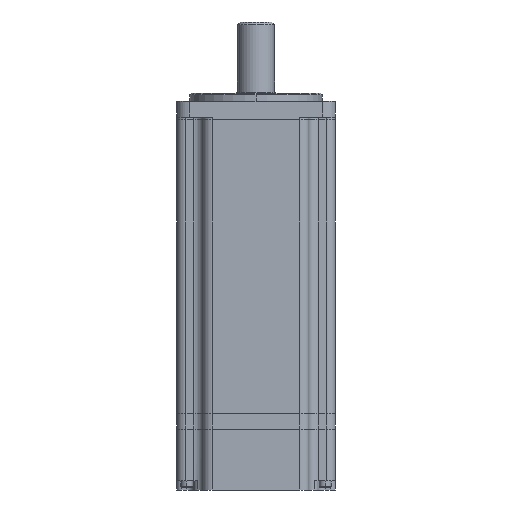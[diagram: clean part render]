
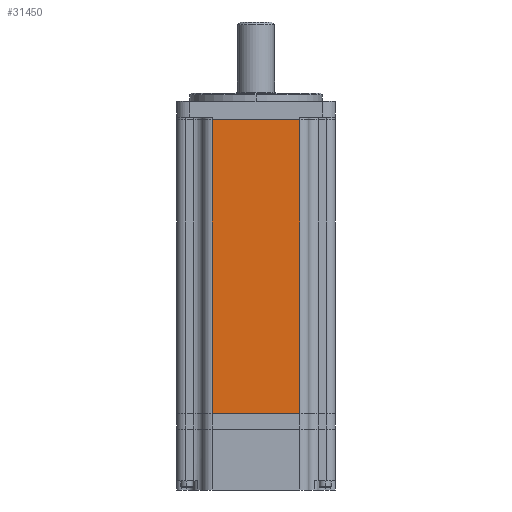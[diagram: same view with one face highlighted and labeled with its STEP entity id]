
A CAD part, left-side view. The second image highlights one B-rep face of the part: STEP entity #31450.
In plain terms, the highlighted planar face has unit normal (-1, 0, 0).
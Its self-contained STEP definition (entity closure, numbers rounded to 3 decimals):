
#43 = ORIENTED_EDGE ( 'NONE', *, *, #6734, .T. ) ;
#5671 = VECTOR ( 'NONE', #45892, 1000. ) ;
#6734 = EDGE_CURVE ( 'NONE', #25562, #23627, #47870, .T. ) ;
#7337 = ORIENTED_EDGE ( 'NONE', *, *, #9336, .T. ) ;
#8820 = AXIS2_PLACEMENT_3D ( 'NONE', #42765, #46589, #23961 ) ;
#9336 = EDGE_CURVE ( 'NONE', #15531, #25562, #28213, .T. ) ;
#10498 = CARTESIAN_POINT ( 'NONE',  ( -30., -16.5, 0. ) ) ;
#11825 = CARTESIAN_POINT ( 'NONE',  ( -30., -20., 0. ) ) ;
#12350 = ORIENTED_EDGE ( 'NONE', *, *, #37418, .T. ) ;
#12410 = CARTESIAN_POINT ( 'NONE',  ( -30., -20., -111. ) ) ;
#13964 = ORIENTED_EDGE ( 'NONE', *, *, #44519, .F. ) ;
#13992 = VECTOR ( 'NONE', #16548, 1000. ) ;
#15531 = VERTEX_POINT ( 'NONE', #10498 ) ;
#16548 = DIRECTION ( 'NONE',  ( 0., 0., 1. ) ) ;
#20154 = PLANE ( 'NONE',  #8820 ) ;
#20357 = CARTESIAN_POINT ( 'NONE',  ( -30., 16.5, 0. ) ) ;
#23064 = VECTOR ( 'NONE', #42825, 1000. ) ;
#23627 = VERTEX_POINT ( 'NONE', #33938 ) ;
#23961 = DIRECTION ( 'NONE',  ( 0., 0., 1. ) ) ;
#25562 = VERTEX_POINT ( 'NONE', #20357 ) ;
#26123 = CARTESIAN_POINT ( 'NONE',  ( -30., -16.5, -111. ) ) ;
#27849 = CARTESIAN_POINT ( 'NONE',  ( -30., 16.5, -111. ) ) ;
#28213 = LINE ( 'NONE', #11825, #5671 ) ;
#31450 = ADVANCED_FACE ( 'NONE', ( #40390 ), #20154, .F. ) ;
#33069 = LINE ( 'NONE', #12410, #23064 ) ;
#33938 = CARTESIAN_POINT ( 'NONE',  ( -30., 16.5, -111. ) ) ;
#34182 = LINE ( 'NONE', #39242, #13992 ) ;
#37418 = EDGE_CURVE ( 'NONE', #42657, #15531, #34182, .T. ) ;
#39242 = CARTESIAN_POINT ( 'NONE',  ( -30., -16.5, -111. ) ) ;
#39250 = DIRECTION ( 'NONE',  ( 0., 0., -1. ) ) ;
#39674 = EDGE_LOOP ( 'NONE', ( #13964, #12350, #7337, #43 ) ) ;
#40390 = FACE_OUTER_BOUND ( 'NONE', #39674, .T. ) ;
#42657 = VERTEX_POINT ( 'NONE', #26123 ) ;
#42765 = CARTESIAN_POINT ( 'NONE',  ( -30., -20., -111. ) ) ;
#42825 = DIRECTION ( 'NONE',  ( 0., 1., 0. ) ) ;
#44519 = EDGE_CURVE ( 'NONE', #42657, #23627, #33069, .T. ) ;
#45520 = VECTOR ( 'NONE', #39250, 1000. ) ;
#45892 = DIRECTION ( 'NONE',  ( 0., 1., 0. ) ) ;
#46589 = DIRECTION ( 'NONE',  ( 1., 0., 0. ) ) ;
#47870 = LINE ( 'NONE', #27849, #45520 ) ;
